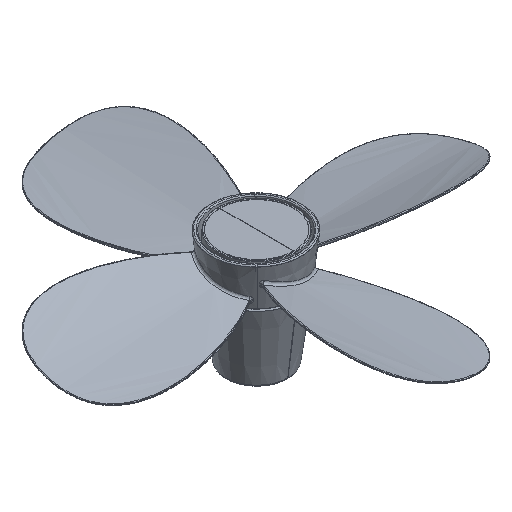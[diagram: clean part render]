
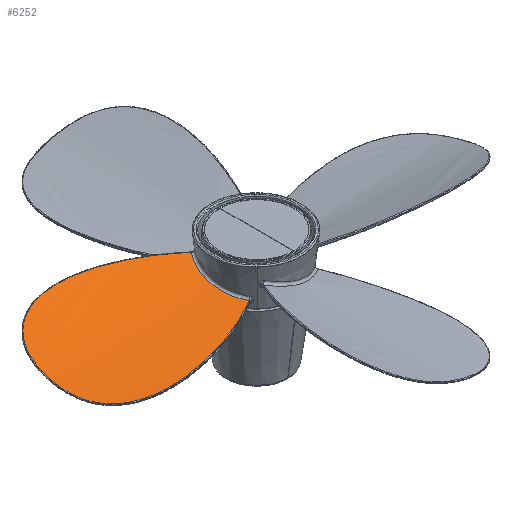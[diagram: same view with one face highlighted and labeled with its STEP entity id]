
A CAD part, isometric view. The second image highlights one B-rep face of the part: STEP entity #6252.
In plain terms, the highlighted cylindrical face has radius 690.312 mm (diameter 1380.62 mm), a partial arc.
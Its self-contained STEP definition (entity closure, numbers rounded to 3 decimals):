
#544=B_SPLINE_CURVE_WITH_KNOTS('',3,(#18895,#18896,#18897,#18898,#18899,
#18900,#18901,#18902,#18903,#18904,#18905,#18906,#18907,#18908,#18909,#18910),
 .UNSPECIFIED.,.F.,.F.,(4,1,1,1,1,1,1,1,1,1,1,1,1,4),(0.,0.077,
0.154,0.231,0.308,0.385,
0.462,0.538,0.615,0.692,
0.769,0.846,0.923,1.),.UNSPECIFIED.);
#546=B_SPLINE_CURVE_WITH_KNOTS('',3,(#18984,#18985,#18986,#18987,#18988,
#18989,#18990,#18991,#18992,#18993,#18994,#18995,#18996,#18997,#18998,#18999),
 .UNSPECIFIED.,.F.,.F.,(4,1,1,1,1,1,1,1,1,1,1,1,1,4),(0.,0.077,
0.154,0.231,0.308,0.385,
0.462,0.538,0.615,0.692,
0.769,0.846,0.923,1.),.UNSPECIFIED.);
#547=B_SPLINE_CURVE_WITH_KNOTS('',3,(#19001,#19002,#19003,#19004,#19005,
#19006,#19007,#19008,#19009,#19010,#19011,#19012),.UNSPECIFIED.,.F.,.F.,
(4,1,1,1,1,1,1,1,1,4),(0.,0.111,0.222,0.333,
0.444,0.556,0.667,0.778,
0.889,1.),.UNSPECIFIED.);
#938=CYLINDRICAL_SURFACE('',#6640,690.313);
#1176=FACE_OUTER_BOUND('',#1526,.T.);
#1526=EDGE_LOOP('',(#5180,#5181,#5182,#5183));
#1767=CIRCLE('',#6641,690.294);
#2715=VERTEX_POINT('',#18885);
#2716=VERTEX_POINT('',#18894);
#2717=VERTEX_POINT('',#18982);
#2718=VERTEX_POINT('',#18983);
#3607=EDGE_CURVE('',#2716,#2715,#544,.T.);
#3609=EDGE_CURVE('',#2717,#2718,#546,.T.);
#3610=EDGE_CURVE('',#2717,#2716,#1767,.T.);
#3611=EDGE_CURVE('',#2718,#2715,#547,.T.);
#5180=ORIENTED_EDGE('',*,*,#3609,.F.);
#5181=ORIENTED_EDGE('',*,*,#3610,.T.);
#5182=ORIENTED_EDGE('',*,*,#3607,.T.);
#5183=ORIENTED_EDGE('',*,*,#3611,.F.);
#6252=ADVANCED_FACE('',(#1176),#938,.F.);
#6640=AXIS2_PLACEMENT_3D('',#18981,#7439,#7440);
#6641=AXIS2_PLACEMENT_3D('',#19000,#7441,#7442);
#7439=DIRECTION('center_axis',(-1.,0.002,-0.007));
#7440=DIRECTION('ref_axis',(0.002,1.,0.));
#7441=DIRECTION('center_axis',(-1.,0.,0.));
#7442=DIRECTION('ref_axis',(0.,0.255,-0.967));
#18885=CARTESIAN_POINT('',(-65.87,-51.747,163.079));
#18894=CARTESIAN_POINT('',(-399.058,0.86,172.327));
#18895=CARTESIAN_POINT('Ctrl Pts',(-399.058,0.86,
172.327));
#18896=CARTESIAN_POINT('Ctrl Pts',(-399.089,-9.156,
169.643));
#18897=CARTESIAN_POINT('Ctrl Pts',(-397.48,-29.932,
164.725));
#18898=CARTESIAN_POINT('Ctrl Pts',(-387.408,-59.748,159.083));
#18899=CARTESIAN_POINT('Ctrl Pts',(-367.028,-84.635,
155.566));
#18900=CARTESIAN_POINT('Ctrl Pts',(-339.107,-100.412,
153.932));
#18901=CARTESIAN_POINT('Ctrl Pts',(-308.29,-108.196,
153.372));
#18902=CARTESIAN_POINT('Ctrl Pts',(-276.701,-110.419,
153.391));
#18903=CARTESIAN_POINT('Ctrl Pts',(-245.132,-108.724,
153.781));
#18904=CARTESIAN_POINT('Ctrl Pts',(-213.88,-104.145,154.464));
#18905=CARTESIAN_POINT('Ctrl Pts',(-183.051,-97.354,
155.425));
#18906=CARTESIAN_POINT('Ctrl Pts',(-152.727,-88.627,
156.694));
#18907=CARTESIAN_POINT('Ctrl Pts',(-122.978,-78.17,
158.318));
#18908=CARTESIAN_POINT('Ctrl Pts',(-93.867,-66.091,
160.359));
#18909=CARTESIAN_POINT('Ctrl Pts',(-75.07,-56.77,
162.094));
#18910=CARTESIAN_POINT('Ctrl Pts',(-65.87,-51.747,
163.079));
#18981=CARTESIAN_POINT('Origin',(-237.451,-175.756,840.907));
#18982=CARTESIAN_POINT('',(-399.058,1.451,172.484));
#18983=CARTESIAN_POINT('',(-70.224,56.411,192.084));
#18984=CARTESIAN_POINT('Ctrl Pts',(-399.058,1.451,172.484));
#18985=CARTESIAN_POINT('Ctrl Pts',(-399.077,11.52,175.123));
#18986=CARTESIAN_POINT('Ctrl Pts',(-397.477,31.929,181.092));
#18987=CARTESIAN_POINT('Ctrl Pts',(-387.969,60.719,190.956));
#18988=CARTESIAN_POINT('Ctrl Pts',(-369.156,85.049,200.577));
#18989=CARTESIAN_POINT('Ctrl Pts',(-342.478,101.433,207.797));
#18990=CARTESIAN_POINT('Ctrl Pts',(-312.064,109.958,211.878));
#18991=CARTESIAN_POINT('Ctrl Pts',(-280.539,112.734,213.405));
#18992=CARTESIAN_POINT('Ctrl Pts',(-248.951,111.442,213.061));
#18993=CARTESIAN_POINT('Ctrl Pts',(-217.701,107.185,211.372));
#18994=CARTESIAN_POINT('Ctrl Pts',(-186.931,100.654,208.712));
#18995=CARTESIAN_POINT('Ctrl Pts',(-156.706,92.217,205.319));
#18996=CARTESIAN_POINT('Ctrl Pts',(-127.097,82.046,201.35));
#18997=CARTESIAN_POINT('Ctrl Pts',(-98.128,70.313,196.96));
#18998=CARTESIAN_POINT('Ctrl Pts',(-79.401,61.277,193.756));
#18999=CARTESIAN_POINT('Ctrl Pts',(-70.224,56.411,192.084));
#19000=CARTESIAN_POINT('Origin',(-399.048,-175.442,839.727));
#19001=CARTESIAN_POINT('Ctrl Pts',(-70.224,56.411,192.084));
#19002=CARTESIAN_POINT('Ctrl Pts',(-72.689,52.946,190.824));
#19003=CARTESIAN_POINT('Ctrl Pts',(-77.163,45.526,188.202));
#19004=CARTESIAN_POINT('Ctrl Pts',(-82.255,33.362,184.159));
#19005=CARTESIAN_POINT('Ctrl Pts',(-85.477,20.592,180.203));
#19006=CARTESIAN_POINT('Ctrl Pts',(-86.788,7.545,176.455));
#19007=CARTESIAN_POINT('Ctrl Pts',(-86.185,-5.476,
173.006));
#19008=CARTESIAN_POINT('Ctrl Pts',(-83.716,-18.184,
169.916));
#19009=CARTESIAN_POINT('Ctrl Pts',(-79.467,-30.313,
167.218));
#19010=CARTESIAN_POINT('Ctrl Pts',(-73.564,-41.618,
164.925));
#19011=CARTESIAN_POINT('Ctrl Pts',(-68.595,-48.497,
163.654));
#19012=CARTESIAN_POINT('Ctrl Pts',(-65.869,-51.746,163.079));
